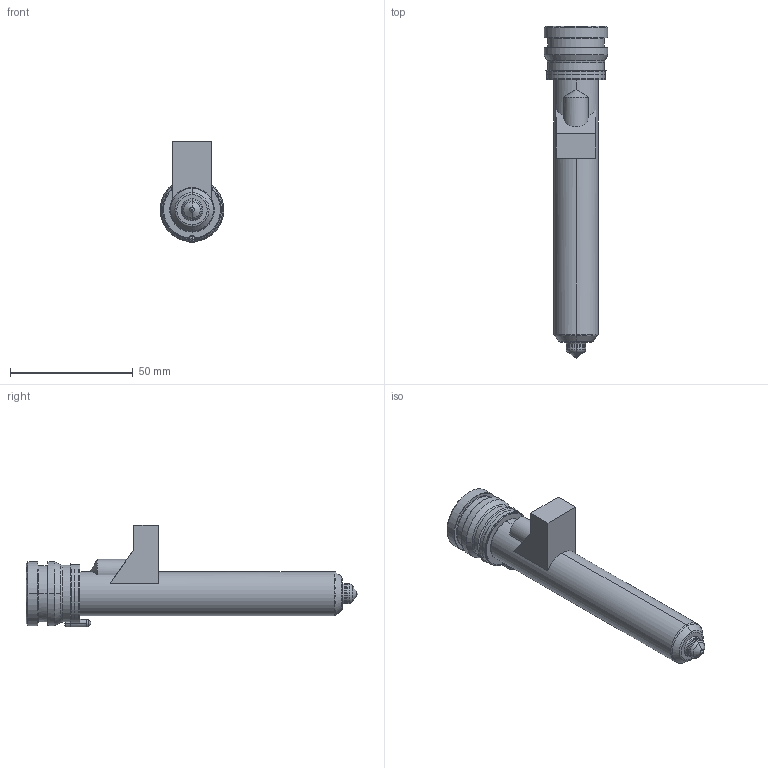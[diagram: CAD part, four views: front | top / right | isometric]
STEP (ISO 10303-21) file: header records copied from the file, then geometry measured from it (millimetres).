
FILE_DESCRIPTION((''),'2;1');
FILE_NAME('MPN-08-24-TX8-116-M','2026-02-05T13:26:17',('UPTIO'),('Thermoplay S.p.A.'),'CREO PARAMETRIC BY PTC INC, 2023494','CREO PARAMETRIC BY PTC INC, 2023494','');
FILE_SCHEMA(('CONFIG_CONTROL_DESIGN','SHAPE_APPEARANCE_LAYERS_GROUPS'));
Length unit declared in the file: millimetre
Products named in the file (1): MPN-08-24-TX8-116-M
Bounding box: 26 x 135.5 x 41.5 mm (x, y, z)
Volume: 26270.3 mm3; surface area: 34576.1 mm2
Topology: 2 solids, 3 shells, 532 faces, 1392 edges, 855 vertices
Faces by surface type: cylinder 174, plane 144, bspline 77, torus 62, cone 58, sphere 11, extrusion 6
Entity records: 27757 total; most frequent: CARTESIAN_POINT 12133, ORIENTED_EDGE 2762, DIRECTION 2491, EDGE_CURVE 1381, AXIS2_PLACEMENT_3D 974, VERTEX_POINT 855, EDGE_LOOP 562, VECTOR 543
